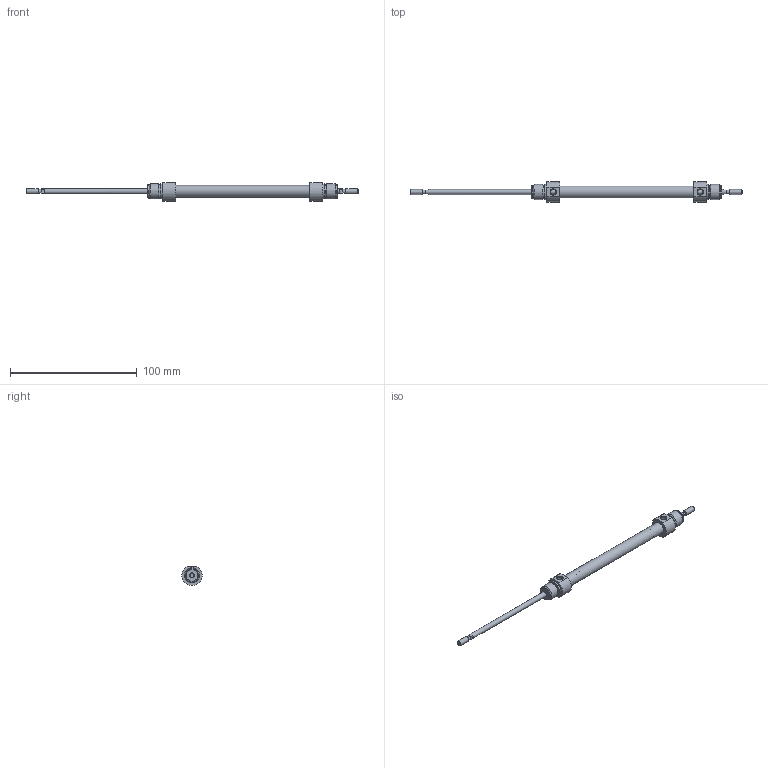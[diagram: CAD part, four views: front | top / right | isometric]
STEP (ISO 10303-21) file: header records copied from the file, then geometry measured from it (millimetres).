
FILE_DESCRIPTION( ( 'STEP AP203' ), '1' );
FILE_NAME( '//expscmdclustefs.cadenas.external/client_exchange/iodir/jobs/output/wkb68261457_no0/STEP/M101-08-0080--__0__2_03.stp', ' ', ( ' ' ), ( ' ' ), 'PSStep 15.0.47', 'PARTsolutions', ' ' );
FILE_SCHEMA( ( 'CONFIG_CONTROL_DESIGN' ) );
Length unit declared in the file: millimetre
Products named in the file (3): M101-08-0080-- [0]; HI_M101-08-0080---[0]-z; HI_M101-08-0080---[0]-k
Assembly tree (2 placements, depth 2):
  M101-08-0080-- [0]
    HI_M101-08-0080---[0]-z
    HI_M101-08-0080---[0]-k
Bounding box: 262 x 15.98 x 14.97 mm (x, y, z)
Volume: 11875.3 mm3; surface area: 12161.2 mm2
Topology: 2 solids, 2 shells, 71 faces, 145 edges, 88 vertices
Faces by surface type: plane 32, cylinder 23, cone 14, torus 2
Full cylindrical faces by diameter (mm): 3.141 x2, 4 x6, 4.134 x2, 8 x2, 9.3 x1, 10.466 x4, 12 x4
Entity records: 1838 total; most frequent: CARTESIAN_POINT 358, DIRECTION 312, ORIENTED_EDGE 212, AXIS2_PLACEMENT_3D 140, EDGE_LOOP 120, EDGE_CURVE 106, FACE_OUTER_BOUND 94, VERTEX_POINT 82
